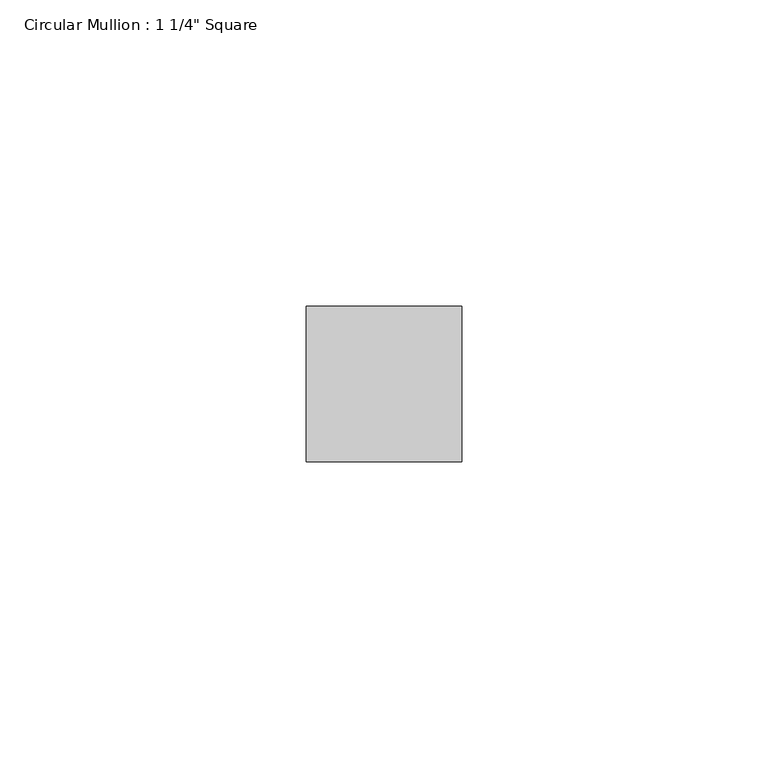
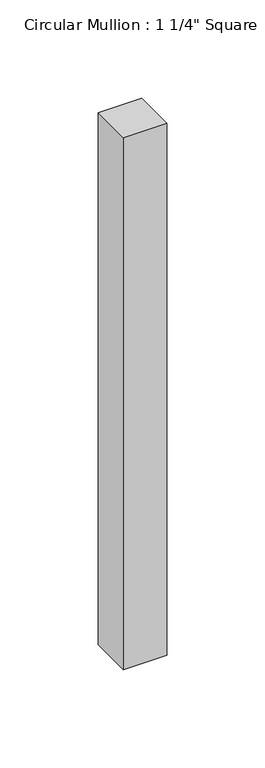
"""IFC4 building model written with IfcOpenShell, lengths in millimetres: member geometry."""

from ifc_helpers import new_model, si_unit, frame, origin, place, context, project, spatial, polyline, outline, extrude, source, transform, mapped, element, save


def member_2d38b123(model_context):
    return source(origin(), model_context, "Body", "SweptSolid", [
        extrude(outline(polyline([(0.0, 12.7), (0.0, -12.7), (-25.4, -12.7), (-25.4, 12.7), (0.0, 12.7)])), frame((0.0, 0.0, -330.2000003), z_axis=(0.0, 0.0, 1.0), x_axis=(1.0, 0.0, 0.0)), (0.0, 0.0, 1.0), 330.2000003),
    ])


if __name__ == "__main__":
    model = new_model("IFC4")
    model_context = context("Model", 3, world=origin())
    ifc_project = project(units=[si_unit("LENGTHUNIT", "METRE", prefix="MILLI")], contexts=[model_context])
    site = spatial("IfcSite", under=ifc_project)
    building = spatial("IfcBuilding", under=site)
    placement = place(None, origin())
    member_shape = member_2d38b123(model_context)
    element("IfcMember", 1, ObjectType="Circular Mullion : 1 1/4\" Square", at=placement, inside=building, context=model_context, shape_type="MappedRepresentation", body=[
        mapped(member_shape, transform((0.0, 0.0, 0.0), x_axis=(1.0, 0.0, 0.0), y_axis=(0.0, 1.0, 0.0), z_axis=(0.0, 0.0, 1.0))),
    ])
    save(model, "model.ifc")
